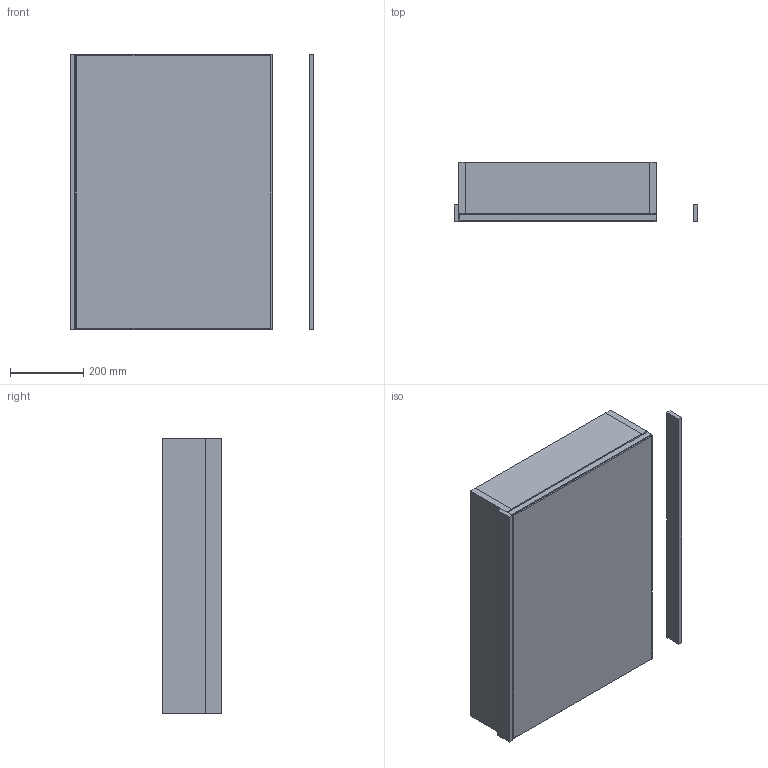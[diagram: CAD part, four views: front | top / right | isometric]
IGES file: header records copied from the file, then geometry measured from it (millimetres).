
Start section: Data from Parasolid IGES Translator 19.0.9, Copyright(c) 2006 Siemens PL M Software. All Rights Reserved.
Global section: file name: noorth-mirror-H 75 D 4,5-16 W 54_9129.igs; native system: By Siemens PLM Incorporated; preprocessor: XPlus GENERIC/IGES 19.0.9; author: Noname; organization: Noname; date: 20200519.100803; units: metre
Bounding box: 663.82 x 162 x 750 mm (x, y, z)
Volume: 17122136 mm3; surface area: 3663137.7 mm2
Topology: 12 solids, 12 shells, 136 faces, 264 edges, 152 vertices
Faces by surface type: plane 136
